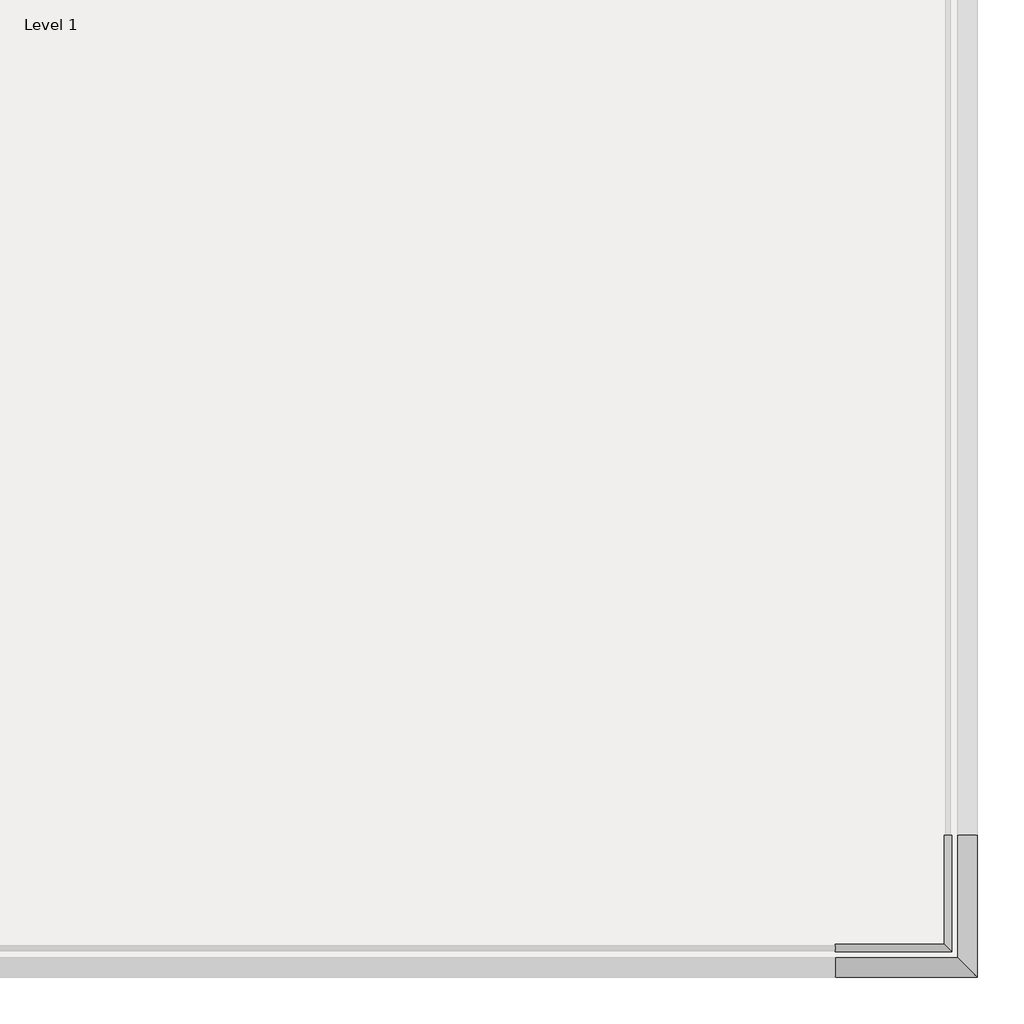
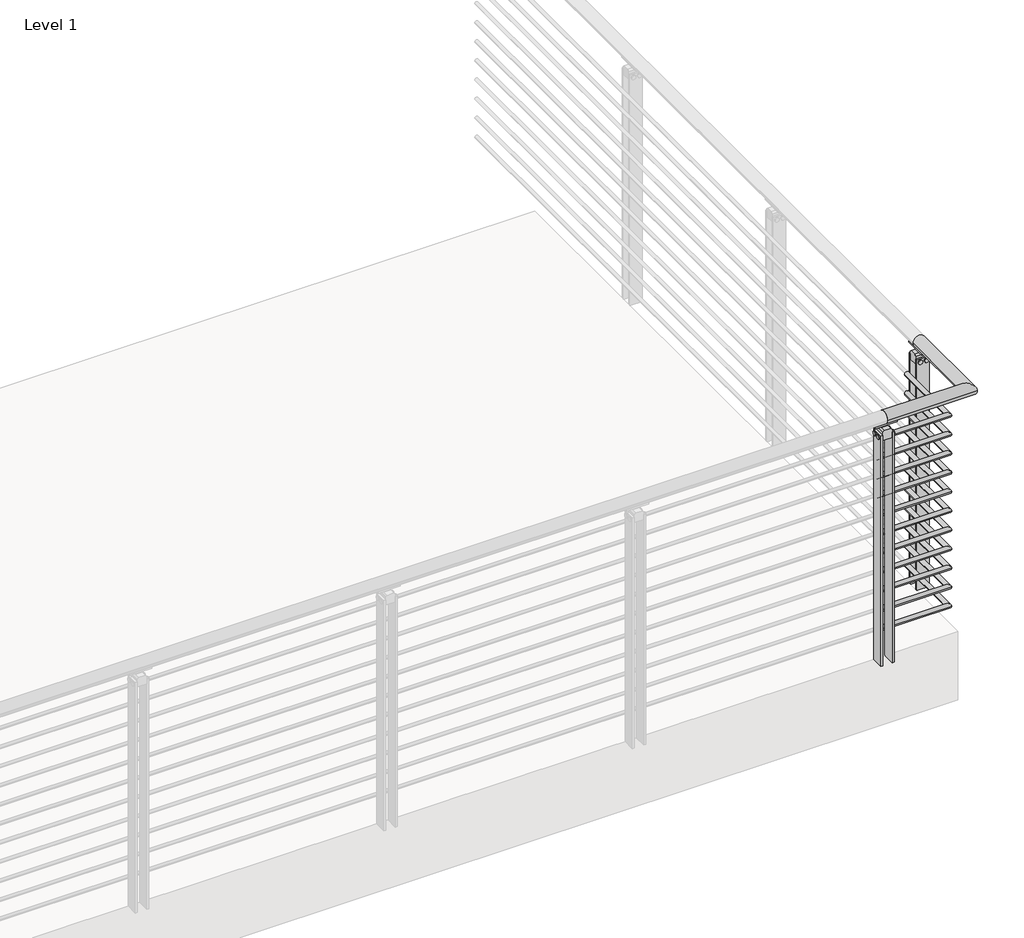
# One storey, part 10 of 36: 1 railing.
"""IFC4 building model written with IfcOpenShell, lengths in millimetres."""

from ifc_helpers import new_model, si_unit, point, frame, frame_2d, origin, origin_with_axes, place, context, project, spatial, polyline, circle_curve, ellipse_curve, trimmed, segment, composite_curve, outline, extrude, element, save
from ifc_brep_helpers import plane_surface, cylinder_surface, revolved_surface, advanced_brep

model = new_model("IFC4")

# Units and contexts
model_context = context("Model", 3, world=origin())
ifc_project = project(units=[si_unit("LENGTHUNIT", "METRE", prefix="MILLI")], contexts=[model_context])

# Site, building, storey
site = spatial("IfcSite", under=ifc_project)
building = spatial("IfcBuilding", under=site)
storey = spatial("IfcBuildingStorey", under=building, Name="Level 1", Elevation=0.0)

# Railing
placement = place(None, origin())
element("IfcRailing", 1, ObjectType="VIVA-BLADE-Multiline-Weld Mount-Corner", at=placement, inside=storey, context=model_context, shape_type="SolidModel", body=[
    advanced_brep(
    [(45029.2855247, -75066.0334719, 1054.1), (45029.2855247, -75015.2334719, 1054.1), (45397.5855247, -75066.0334719, 1054.1), (45346.7855247, -75015.2334719, 1054.1), (45397.5855247, -74697.7334719, 1054.1), (45346.7855247, -74697.7334719, 1054.1)],
    [
        (0, 1, circle_curve(frame((45029.2855247, -75040.6334719, 1054.1), z_axis=(-1.0, 0.0, 0.0), x_axis=(0.0, 1.0, 0.0)), 25.4)),
        (1, 0, circle_curve(frame((45029.2855247, -75040.6334719, 1054.1), z_axis=(-1.0, 0.0, 0.0), x_axis=(0.0, 1.0, 0.0)), 25.4)),
        (0, 2),
        (2, 3, ellipse_curve(frame((45372.1855247, -75040.6334719, 1054.1), z_axis=(-0.7071067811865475, -0.7071067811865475, 0.0), x_axis=(-0.7071067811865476, 0.7071067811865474, 0.0)), 35.9210245, 25.4)),
        (3, 1),
        (3, 2, ellipse_curve(frame((45372.1855247, -75040.6334719, 1054.1), z_axis=(-0.7071067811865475, -0.7071067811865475, 0.0), x_axis=(-0.7071067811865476, 0.7071067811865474, 0.0)), 35.9210245, 25.4)),
        (4, 5, circle_curve(frame((45372.1855247, -74697.7334719, 1054.1), z_axis=(0.0, 1.0, 0.0), x_axis=(-1.0, 0.0, 0.0)), 25.4)),
        (5, 4, circle_curve(frame((45372.1855247, -74697.7334719, 1054.1), z_axis=(0.0, 1.0, 0.0), x_axis=(-1.0, 0.0, 0.0)), 25.4)),
        (2, 4),
        (5, 3),
    ],
    [
        plane_surface(frame((45029.2855247, -75040.6334719, 1079.5), z_axis=(-1.0, 0.0, 0.0), x_axis=(0.0, 1.0, 0.0))),
        cylinder_surface(frame((45029.2855247, -75040.6334719, 1054.1), z_axis=(-1.0, 0.0, 0.0), x_axis=(0.0, 1.0, 0.0)), 25.4),
        plane_surface(frame((45372.1855247, -74697.7334719, 1079.5), z_axis=(0.0, 1.0, 0.0), x_axis=(0.0, 0.0, 1.0))),
        cylinder_surface(frame((45372.1855247, -75040.6334719, 1054.1), z_axis=(0.0, -1.0, 0.0), x_axis=(-1.0, 0.0, 0.0)), 25.4),
    ],
    [
        (0, [[1, 2]]),
        (1, [[-1, 3, 4, 5]]),
        (1, [[-2, -5, 6, -3]]),
        (2, [[7, 8]]),
        (3, [[-4, 9, -8, 10]]),
        (3, [[-6, -10, -7, -9]]),
    ],
),
    advanced_brep(
    [(45029.2855247, -74980.3084719, 930.275), (45029.2855247, -74999.3584719, 930.275), (45311.8605247, -74980.3084719, 930.275), (45330.9105247, -74999.3584719, 930.275), (45311.8605247, -74697.7334719, 930.275), (45330.9105247, -74697.7334719, 930.275)],
    [
        (0, 1, circle_curve(frame((45029.2855247, -74989.8334719, 930.275), z_axis=(-1.0, 0.0, 0.0), x_axis=(0.0, -1.0, 0.0)), 9.525)),
        (1, 0, circle_curve(frame((45029.2855247, -74989.8334719, 930.275), z_axis=(-1.0, 0.0, 0.0), x_axis=(0.0, -1.0, 0.0)), 9.525)),
        (0, 2),
        (2, 3, ellipse_curve(frame((45321.3855247, -74989.8334719, 930.275), z_axis=(-0.7071067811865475, -0.7071067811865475, 0.0), x_axis=(-0.7071067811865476, 0.7071067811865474, 0.0)), 13.4703842, 9.525)),
        (3, 1),
        (3, 2, ellipse_curve(frame((45321.3855247, -74989.8334719, 930.275), z_axis=(-0.7071067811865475, -0.7071067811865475, 0.0), x_axis=(-0.7071067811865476, 0.7071067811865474, 0.0)), 13.4703842, 9.525)),
        (4, 5, circle_curve(frame((45321.3855247, -74697.7334719, 930.275), z_axis=(0.0, 1.0, 0.0), x_axis=(1.0, 0.0, 0.0)), 9.525)),
        (5, 4, circle_curve(frame((45321.3855247, -74697.7334719, 930.275), z_axis=(0.0, 1.0, 0.0), x_axis=(1.0, 0.0, 0.0)), 9.525)),
        (2, 4),
        (5, 3),
    ],
    [
        plane_surface(frame((45029.2855247, -74989.8334719, 939.8), z_axis=(-1.0, 0.0, 0.0), x_axis=(0.0, 1.0, 0.0))),
        cylinder_surface(frame((45029.2855247, -74989.8334719, 930.275), z_axis=(-1.0, 0.0, 0.0), x_axis=(0.0, -1.0, 0.0)), 9.525),
        plane_surface(frame((45321.3855247, -74697.7334719, 939.8), z_axis=(0.0, 1.0, 0.0), x_axis=(0.0, 0.0, 1.0))),
        cylinder_surface(frame((45321.3855247, -74989.8334719, 930.275), z_axis=(0.0, -1.0, 0.0), x_axis=(1.0, 0.0, 0.0)), 9.525),
    ],
    [
        (0, [[1, 2]]),
        (1, [[-1, 3, 4, 5]]),
        (1, [[-2, -5, 6, -3]]),
        (2, [[7, 8]]),
        (3, [[-4, 9, -8, 10]]),
        (3, [[-6, -10, -7, -9]]),
    ],
),
    advanced_brep(
    [(45029.2855247, -74980.3084719, 847.725), (45029.2855247, -74999.3584719, 847.725), (45311.8605247, -74980.3084719, 847.725), (45330.9105247, -74999.3584719, 847.725), (45311.8605247, -74697.7334719, 847.725), (45330.9105247, -74697.7334719, 847.725)],
    [
        (0, 1, circle_curve(frame((45029.2855247, -74989.8334719, 847.725), z_axis=(-1.0, 0.0, 0.0), x_axis=(0.0, -1.0, 0.0)), 9.525)),
        (1, 0, circle_curve(frame((45029.2855247, -74989.8334719, 847.725), z_axis=(-1.0, 0.0, 0.0), x_axis=(0.0, -1.0, 0.0)), 9.525)),
        (0, 2),
        (2, 3, ellipse_curve(frame((45321.3855247, -74989.8334719, 847.725), z_axis=(-0.7071067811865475, -0.7071067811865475, 0.0), x_axis=(-0.7071067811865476, 0.7071067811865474, 0.0)), 13.4703842, 9.525)),
        (3, 1),
        (3, 2, ellipse_curve(frame((45321.3855247, -74989.8334719, 847.725), z_axis=(-0.7071067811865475, -0.7071067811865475, 0.0), x_axis=(-0.7071067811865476, 0.7071067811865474, 0.0)), 13.4703842, 9.525)),
        (4, 5, circle_curve(frame((45321.3855247, -74697.7334719, 847.725), z_axis=(0.0, 1.0, 0.0), x_axis=(1.0, 0.0, 0.0)), 9.525)),
        (5, 4, circle_curve(frame((45321.3855247, -74697.7334719, 847.725), z_axis=(0.0, 1.0, 0.0), x_axis=(1.0, 0.0, 0.0)), 9.525)),
        (2, 4),
        (5, 3),
    ],
    [
        plane_surface(frame((45029.2855247, -74989.8334719, 857.25), z_axis=(-1.0, 0.0, 0.0), x_axis=(0.0, 1.0, 0.0))),
        cylinder_surface(frame((45029.2855247, -74989.8334719, 847.725), z_axis=(-1.0, 0.0, 0.0), x_axis=(0.0, -1.0, 0.0)), 9.525),
        plane_surface(frame((45321.3855247, -74697.7334719, 857.25), z_axis=(0.0, 1.0, 0.0), x_axis=(0.0, 0.0, 1.0))),
        cylinder_surface(frame((45321.3855247, -74989.8334719, 847.725), z_axis=(0.0, -1.0, 0.0), x_axis=(1.0, 0.0, 0.0)), 9.525),
    ],
    [
        (0, [[1, 2]]),
        (1, [[-1, 3, 4, 5]]),
        (1, [[-2, -5, 6, -3]]),
        (2, [[7, 8]]),
        (3, [[-4, 9, -8, 10]]),
        (3, [[-6, -10, -7, -9]]),
    ],
),
    advanced_brep(
    [(45029.2855247, -74980.3084719, 765.175), (45029.2855247, -74999.3584719, 765.175), (45311.8605247, -74980.3084719, 765.175), (45330.9105247, -74999.3584719, 765.175), (45311.8605247, -74697.7334719, 765.175), (45330.9105247, -74697.7334719, 765.175)],
    [
        (0, 1, circle_curve(frame((45029.2855247, -74989.8334719, 765.175), z_axis=(-1.0, 0.0, 0.0), x_axis=(0.0, -1.0, 0.0)), 9.525)),
        (1, 0, circle_curve(frame((45029.2855247, -74989.8334719, 765.175), z_axis=(-1.0, 0.0, 0.0), x_axis=(0.0, -1.0, 0.0)), 9.525)),
        (0, 2),
        (2, 3, ellipse_curve(frame((45321.3855247, -74989.8334719, 765.175), z_axis=(-0.7071067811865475, -0.7071067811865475, 0.0), x_axis=(-0.7071067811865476, 0.7071067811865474, 0.0)), 13.4703842, 9.525)),
        (3, 1),
        (3, 2, ellipse_curve(frame((45321.3855247, -74989.8334719, 765.175), z_axis=(-0.7071067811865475, -0.7071067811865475, 0.0), x_axis=(-0.7071067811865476, 0.7071067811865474, 0.0)), 13.4703842, 9.525)),
        (4, 5, circle_curve(frame((45321.3855247, -74697.7334719, 765.175), z_axis=(0.0, 1.0, 0.0), x_axis=(1.0, 0.0, 0.0)), 9.525)),
        (5, 4, circle_curve(frame((45321.3855247, -74697.7334719, 765.175), z_axis=(0.0, 1.0, 0.0), x_axis=(1.0, 0.0, 0.0)), 9.525)),
        (2, 4),
        (5, 3),
    ],
    [
        plane_surface(frame((45029.2855247, -74989.8334719, 774.7), z_axis=(-1.0, 0.0, 0.0), x_axis=(0.0, 1.0, 0.0))),
        cylinder_surface(frame((45029.2855247, -74989.8334719, 765.175), z_axis=(-1.0, 0.0, 0.0), x_axis=(0.0, -1.0, 0.0)), 9.525),
        plane_surface(frame((45321.3855247, -74697.7334719, 774.7), z_axis=(0.0, 1.0, 0.0), x_axis=(0.0, 0.0, 1.0))),
        cylinder_surface(frame((45321.3855247, -74989.8334719, 765.175), z_axis=(0.0, -1.0, 0.0), x_axis=(1.0, 0.0, 0.0)), 9.525),
    ],
    [
        (0, [[1, 2]]),
        (1, [[-1, 3, 4, 5]]),
        (1, [[-2, -5, 6, -3]]),
        (2, [[7, 8]]),
        (3, [[-4, 9, -8, 10]]),
        (3, [[-6, -10, -7, -9]]),
    ],
),
    advanced_brep(
    [(45029.2855247, -74980.3084719, 682.625), (45029.2855247, -74999.3584719, 682.625), (45311.8605247, -74980.3084719, 682.625), (45330.9105247, -74999.3584719, 682.625), (45311.8605247, -74697.7334719, 682.625), (45330.9105247, -74697.7334719, 682.625)],
    [
        (0, 1, circle_curve(frame((45029.2855247, -74989.8334719, 682.625), z_axis=(-1.0, 0.0, 0.0), x_axis=(0.0, -1.0, 0.0)), 9.525)),
        (1, 0, circle_curve(frame((45029.2855247, -74989.8334719, 682.625), z_axis=(-1.0, 0.0, 0.0), x_axis=(0.0, -1.0, 0.0)), 9.525)),
        (0, 2),
        (2, 3, ellipse_curve(frame((45321.3855247, -74989.8334719, 682.625), z_axis=(-0.7071067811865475, -0.7071067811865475, 0.0), x_axis=(-0.7071067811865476, 0.7071067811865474, 0.0)), 13.4703842, 9.525)),
        (3, 1),
        (3, 2, ellipse_curve(frame((45321.3855247, -74989.8334719, 682.625), z_axis=(-0.7071067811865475, -0.7071067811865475, 0.0), x_axis=(-0.7071067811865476, 0.7071067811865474, 0.0)), 13.4703842, 9.525)),
        (4, 5, circle_curve(frame((45321.3855247, -74697.7334719, 682.625), z_axis=(0.0, 1.0, 0.0), x_axis=(1.0, 0.0, 0.0)), 9.525)),
        (5, 4, circle_curve(frame((45321.3855247, -74697.7334719, 682.625), z_axis=(0.0, 1.0, 0.0), x_axis=(1.0, 0.0, 0.0)), 9.525)),
        (2, 4),
        (5, 3),
    ],
    [
        plane_surface(frame((45029.2855247, -74989.8334719, 692.15), z_axis=(-1.0, 0.0, 0.0), x_axis=(0.0, 1.0, 0.0))),
        cylinder_surface(frame((45029.2855247, -74989.8334719, 682.625), z_axis=(-1.0, 0.0, 0.0), x_axis=(0.0, -1.0, 0.0)), 9.525),
        plane_surface(frame((45321.3855247, -74697.7334719, 692.15), z_axis=(0.0, 1.0, 0.0), x_axis=(0.0, 0.0, 1.0))),
        cylinder_surface(frame((45321.3855247, -74989.8334719, 682.625), z_axis=(0.0, -1.0, 0.0), x_axis=(1.0, 0.0, 0.0)), 9.525),
    ],
    [
        (0, [[1, 2]]),
        (1, [[-1, 3, 4, 5]]),
        (1, [[-2, -5, 6, -3]]),
        (2, [[7, 8]]),
        (3, [[-4, 9, -8, 10]]),
        (3, [[-6, -10, -7, -9]]),
    ],
),
    advanced_brep(
    [(45029.2855247, -74980.3084719, 600.075), (45029.2855247, -74999.3584719, 600.075), (45311.8605247, -74980.3084719, 600.075), (45330.9105247, -74999.3584719, 600.075), (45311.8605247, -74697.7334719, 600.075), (45330.9105247, -74697.7334719, 600.075)],
    [
        (0, 1, circle_curve(frame((45029.2855247, -74989.8334719, 600.075), z_axis=(-1.0, 0.0, 0.0), x_axis=(0.0, -1.0, 0.0)), 9.525)),
        (1, 0, circle_curve(frame((45029.2855247, -74989.8334719, 600.075), z_axis=(-1.0, 0.0, 0.0), x_axis=(0.0, -1.0, 0.0)), 9.525)),
        (0, 2),
        (2, 3, ellipse_curve(frame((45321.3855247, -74989.8334719, 600.075), z_axis=(-0.7071067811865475, -0.7071067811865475, 0.0), x_axis=(-0.7071067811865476, 0.7071067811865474, 0.0)), 13.4703842, 9.525)),
        (3, 1),
        (3, 2, ellipse_curve(frame((45321.3855247, -74989.8334719, 600.075), z_axis=(-0.7071067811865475, -0.7071067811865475, 0.0), x_axis=(-0.7071067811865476, 0.7071067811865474, 0.0)), 13.4703842, 9.525)),
        (4, 5, circle_curve(frame((45321.3855247, -74697.7334719, 600.075), z_axis=(0.0, 1.0, 0.0), x_axis=(1.0, 0.0, 0.0)), 9.525)),
        (5, 4, circle_curve(frame((45321.3855247, -74697.7334719, 600.075), z_axis=(0.0, 1.0, 0.0), x_axis=(1.0, 0.0, 0.0)), 9.525)),
        (2, 4),
        (5, 3),
    ],
    [
        plane_surface(frame((45029.2855247, -74989.8334719, 609.6), z_axis=(-1.0, 0.0, 0.0), x_axis=(0.0, 1.0, 0.0))),
        cylinder_surface(frame((45029.2855247, -74989.8334719, 600.075), z_axis=(-1.0, 0.0, 0.0), x_axis=(0.0, -1.0, 0.0)), 9.525),
        plane_surface(frame((45321.3855247, -74697.7334719, 609.6), z_axis=(0.0, 1.0, 0.0), x_axis=(0.0, 0.0, 1.0))),
        cylinder_surface(frame((45321.3855247, -74989.8334719, 600.075), z_axis=(0.0, -1.0, 0.0), x_axis=(1.0, 0.0, 0.0)), 9.525),
    ],
    [
        (0, [[1, 2]]),
        (1, [[-1, 3, 4, 5]]),
        (1, [[-2, -5, 6, -3]]),
        (2, [[7, 8]]),
        (3, [[-4, 9, -8, 10]]),
        (3, [[-6, -10, -7, -9]]),
    ],
),
    advanced_brep(
    [(45029.2855247, -74980.3084719, 517.525), (45029.2855247, -74999.3584719, 517.525), (45311.8605247, -74980.3084719, 517.525), (45330.9105247, -74999.3584719, 517.525), (45311.8605247, -74697.7334719, 517.525), (45330.9105247, -74697.7334719, 517.525)],
    [
        (0, 1, circle_curve(frame((45029.2855247, -74989.8334719, 517.525), z_axis=(-1.0, 0.0, 0.0), x_axis=(0.0, -1.0, 0.0)), 9.525)),
        (1, 0, circle_curve(frame((45029.2855247, -74989.8334719, 517.525), z_axis=(-1.0, 0.0, 0.0), x_axis=(0.0, -1.0, 0.0)), 9.525)),
        (0, 2),
        (2, 3, ellipse_curve(frame((45321.3855247, -74989.8334719, 517.525), z_axis=(-0.7071067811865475, -0.7071067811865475, 0.0), x_axis=(-0.7071067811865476, 0.7071067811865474, 0.0)), 13.4703842, 9.525)),
        (3, 1),
        (3, 2, ellipse_curve(frame((45321.3855247, -74989.8334719, 517.525), z_axis=(-0.7071067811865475, -0.7071067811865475, 0.0), x_axis=(-0.7071067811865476, 0.7071067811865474, 0.0)), 13.4703842, 9.525)),
        (4, 5, circle_curve(frame((45321.3855247, -74697.7334719, 517.525), z_axis=(0.0, 1.0, 0.0), x_axis=(1.0, 0.0, 0.0)), 9.525)),
        (5, 4, circle_curve(frame((45321.3855247, -74697.7334719, 517.525), z_axis=(0.0, 1.0, 0.0), x_axis=(1.0, 0.0, 0.0)), 9.525)),
        (2, 4),
        (5, 3),
    ],
    [
        plane_surface(frame((45029.2855247, -74989.8334719, 527.05), z_axis=(-1.0, 0.0, 0.0), x_axis=(0.0, 1.0, 0.0))),
        cylinder_surface(frame((45029.2855247, -74989.8334719, 517.525), z_axis=(-1.0, 0.0, 0.0), x_axis=(0.0, -1.0, 0.0)), 9.525),
        plane_surface(frame((45321.3855247, -74697.7334719, 527.05), z_axis=(0.0, 1.0, 0.0), x_axis=(0.0, 0.0, 1.0))),
        cylinder_surface(frame((45321.3855247, -74989.8334719, 517.525), z_axis=(0.0, -1.0, 0.0), x_axis=(1.0, 0.0, 0.0)), 9.525),
    ],
    [
        (0, [[1, 2]]),
        (1, [[-1, 3, 4, 5]]),
        (1, [[-2, -5, 6, -3]]),
        (2, [[7, 8]]),
        (3, [[-4, 9, -8, 10]]),
        (3, [[-6, -10, -7, -9]]),
    ],
),
    advanced_brep(
    [(45029.2855247, -74980.3084719, 434.975), (45029.2855247, -74999.3584719, 434.975), (45311.8605247, -74980.3084719, 434.975), (45330.9105247, -74999.3584719, 434.975), (45311.8605247, -74697.7334719, 434.975), (45330.9105247, -74697.7334719, 434.975)],
    [
        (0, 1, circle_curve(frame((45029.2855247, -74989.8334719, 434.975), z_axis=(-1.0, 0.0, 0.0), x_axis=(0.0, -1.0, 0.0)), 9.525)),
        (1, 0, circle_curve(frame((45029.2855247, -74989.8334719, 434.975), z_axis=(-1.0, 0.0, 0.0), x_axis=(0.0, -1.0, 0.0)), 9.525)),
        (0, 2),
        (2, 3, ellipse_curve(frame((45321.3855247, -74989.8334719, 434.975), z_axis=(-0.7071067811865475, -0.7071067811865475, 0.0), x_axis=(-0.7071067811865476, 0.7071067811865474, 0.0)), 13.4703842, 9.525)),
        (3, 1),
        (3, 2, ellipse_curve(frame((45321.3855247, -74989.8334719, 434.975), z_axis=(-0.7071067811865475, -0.7071067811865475, 0.0), x_axis=(-0.7071067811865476, 0.7071067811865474, 0.0)), 13.4703842, 9.525)),
        (4, 5, circle_curve(frame((45321.3855247, -74697.7334719, 434.975), z_axis=(0.0, 1.0, 0.0), x_axis=(1.0, 0.0, 0.0)), 9.525)),
        (5, 4, circle_curve(frame((45321.3855247, -74697.7334719, 434.975), z_axis=(0.0, 1.0, 0.0), x_axis=(1.0, 0.0, 0.0)), 9.525)),
        (2, 4),
        (5, 3),
    ],
    [
        plane_surface(frame((45029.2855247, -74989.8334719, 444.5), z_axis=(-1.0, 0.0, 0.0), x_axis=(0.0, 1.0, 0.0))),
        cylinder_surface(frame((45029.2855247, -74989.8334719, 434.975), z_axis=(-1.0, 0.0, 0.0), x_axis=(0.0, -1.0, 0.0)), 9.525),
        plane_surface(frame((45321.3855247, -74697.7334719, 444.5), z_axis=(0.0, 1.0, 0.0), x_axis=(0.0, 0.0, 1.0))),
        cylinder_surface(frame((45321.3855247, -74989.8334719, 434.975), z_axis=(0.0, -1.0, 0.0), x_axis=(1.0, 0.0, 0.0)), 9.525),
    ],
    [
        (0, [[1, 2]]),
        (1, [[-1, 3, 4, 5]]),
        (1, [[-2, -5, 6, -3]]),
        (2, [[7, 8]]),
        (3, [[-4, 9, -8, 10]]),
        (3, [[-6, -10, -7, -9]]),
    ],
),
    advanced_brep(
    [(45029.2855247, -74980.3084719, 352.425), (45029.2855247, -74999.3584719, 352.425), (45311.8605247, -74980.3084719, 352.425), (45330.9105247, -74999.3584719, 352.425), (45311.8605247, -74697.7334719, 352.425), (45330.9105247, -74697.7334719, 352.425)],
    [
        (0, 1, circle_curve(frame((45029.2855247, -74989.8334719, 352.425), z_axis=(-1.0, 0.0, 0.0), x_axis=(0.0, -1.0, 0.0)), 9.525)),
        (1, 0, circle_curve(frame((45029.2855247, -74989.8334719, 352.425), z_axis=(-1.0, 0.0, 0.0), x_axis=(0.0, -1.0, 0.0)), 9.525)),
        (0, 2),
        (2, 3, ellipse_curve(frame((45321.3855247, -74989.8334719, 352.425), z_axis=(-0.7071067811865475, -0.7071067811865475, 0.0), x_axis=(-0.7071067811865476, 0.7071067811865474, 0.0)), 13.4703842, 9.525)),
        (3, 1),
        (3, 2, ellipse_curve(frame((45321.3855247, -74989.8334719, 352.425), z_axis=(-0.7071067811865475, -0.7071067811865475, 0.0), x_axis=(-0.7071067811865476, 0.7071067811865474, 0.0)), 13.4703842, 9.525)),
        (4, 5, circle_curve(frame((45321.3855247, -74697.7334719, 352.425), z_axis=(0.0, 1.0, 0.0), x_axis=(1.0, 0.0, 0.0)), 9.525)),
        (5, 4, circle_curve(frame((45321.3855247, -74697.7334719, 352.425), z_axis=(0.0, 1.0, 0.0), x_axis=(1.0, 0.0, 0.0)), 9.525)),
        (2, 4),
        (5, 3),
    ],
    [
        plane_surface(frame((45029.2855247, -74989.8334719, 361.95), z_axis=(-1.0, 0.0, 0.0), x_axis=(0.0, 1.0, 0.0))),
        cylinder_surface(frame((45029.2855247, -74989.8334719, 352.425), z_axis=(-1.0, 0.0, 0.0), x_axis=(0.0, -1.0, 0.0)), 9.525),
        plane_surface(frame((45321.3855247, -74697.7334719, 361.95), z_axis=(0.0, 1.0, 0.0), x_axis=(0.0, 0.0, 1.0))),
        cylinder_surface(frame((45321.3855247, -74989.8334719, 352.425), z_axis=(0.0, -1.0, 0.0), x_axis=(1.0, 0.0, 0.0)), 9.525),
    ],
    [
        (0, [[1, 2]]),
        (1, [[-1, 3, 4, 5]]),
        (1, [[-2, -5, 6, -3]]),
        (2, [[7, 8]]),
        (3, [[-4, 9, -8, 10]]),
        (3, [[-6, -10, -7, -9]]),
    ],
),
    advanced_brep(
    [(45029.2855247, -74980.3084719, 269.875), (45029.2855247, -74999.3584719, 269.875), (45311.8605247, -74980.3084719, 269.875), (45330.9105247, -74999.3584719, 269.875), (45311.8605247, -74697.7334719, 269.875), (45330.9105247, -74697.7334719, 269.875)],
    [
        (0, 1, circle_curve(frame((45029.2855247, -74989.8334719, 269.875), z_axis=(-1.0, 0.0, 0.0), x_axis=(0.0, -1.0, 0.0)), 9.525)),
        (1, 0, circle_curve(frame((45029.2855247, -74989.8334719, 269.875), z_axis=(-1.0, 0.0, 0.0), x_axis=(0.0, -1.0, 0.0)), 9.525)),
        (0, 2),
        (2, 3, ellipse_curve(frame((45321.3855247, -74989.8334719, 269.875), z_axis=(-0.7071067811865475, -0.7071067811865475, 0.0), x_axis=(-0.7071067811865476, 0.7071067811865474, 0.0)), 13.4703842, 9.525)),
        (3, 1),
        (3, 2, ellipse_curve(frame((45321.3855247, -74989.8334719, 269.875), z_axis=(-0.7071067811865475, -0.7071067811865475, 0.0), x_axis=(-0.7071067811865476, 0.7071067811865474, 0.0)), 13.4703842, 9.525)),
        (4, 5, circle_curve(frame((45321.3855247, -74697.7334719, 269.875), z_axis=(0.0, 1.0, 0.0), x_axis=(1.0, 0.0, 0.0)), 9.525)),
        (5, 4, circle_curve(frame((45321.3855247, -74697.7334719, 269.875), z_axis=(0.0, 1.0, 0.0), x_axis=(1.0, 0.0, 0.0)), 9.525)),
        (2, 4),
        (5, 3),
    ],
    [
        plane_surface(frame((45029.2855247, -74989.8334719, 279.4), z_axis=(-1.0, 0.0, 0.0), x_axis=(0.0, 1.0, 0.0))),
        cylinder_surface(frame((45029.2855247, -74989.8334719, 269.875), z_axis=(-1.0, 0.0, 0.0), x_axis=(0.0, -1.0, 0.0)), 9.525),
        plane_surface(frame((45321.3855247, -74697.7334719, 279.4), z_axis=(0.0, 1.0, 0.0), x_axis=(0.0, 0.0, 1.0))),
        cylinder_surface(frame((45321.3855247, -74989.8334719, 269.875), z_axis=(0.0, -1.0, 0.0), x_axis=(1.0, 0.0, 0.0)), 9.525),
    ],
    [
        (0, [[1, 2]]),
        (1, [[-1, 3, 4, 5]]),
        (1, [[-2, -5, 6, -3]]),
        (2, [[7, 8]]),
        (3, [[-4, 9, -8, 10]]),
        (3, [[-6, -10, -7, -9]]),
    ],
),
    advanced_brep(
    [(45029.2855247, -74980.3084719, 187.325), (45029.2855247, -74999.3584719, 187.325), (45311.8605247, -74980.3084719, 187.325), (45330.9105247, -74999.3584719, 187.325), (45311.8605247, -74697.7334719, 187.325), (45330.9105247, -74697.7334719, 187.325)],
    [
        (0, 1, circle_curve(frame((45029.2855247, -74989.8334719, 187.325), z_axis=(-1.0, 0.0, 0.0), x_axis=(0.0, -1.0, 0.0)), 9.525)),
        (1, 0, circle_curve(frame((45029.2855247, -74989.8334719, 187.325), z_axis=(-1.0, 0.0, 0.0), x_axis=(0.0, -1.0, 0.0)), 9.525)),
        (0, 2),
        (2, 3, ellipse_curve(frame((45321.3855247, -74989.8334719, 187.325), z_axis=(-0.7071067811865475, -0.7071067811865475, 0.0), x_axis=(-0.7071067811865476, 0.7071067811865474, 0.0)), 13.4703842, 9.525)),
        (3, 1),
        (3, 2, ellipse_curve(frame((45321.3855247, -74989.8334719, 187.325), z_axis=(-0.7071067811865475, -0.7071067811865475, 0.0), x_axis=(-0.7071067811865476, 0.7071067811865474, 0.0)), 13.4703842, 9.525)),
        (4, 5, circle_curve(frame((45321.3855247, -74697.7334719, 187.325), z_axis=(0.0, 1.0, 0.0), x_axis=(1.0, 0.0, 0.0)), 9.525)),
        (5, 4, circle_curve(frame((45321.3855247, -74697.7334719, 187.325), z_axis=(0.0, 1.0, 0.0), x_axis=(1.0, 0.0, 0.0)), 9.525)),
        (2, 4),
        (5, 3),
    ],
    [
        plane_surface(frame((45029.2855247, -74989.8334719, 196.85), z_axis=(-1.0, 0.0, 0.0), x_axis=(0.0, 1.0, 0.0))),
        cylinder_surface(frame((45029.2855247, -74989.8334719, 187.325), z_axis=(-1.0, 0.0, 0.0), x_axis=(0.0, -1.0, 0.0)), 9.525),
        plane_surface(frame((45321.3855247, -74697.7334719, 196.85), z_axis=(0.0, 1.0, 0.0), x_axis=(0.0, 0.0, 1.0))),
        cylinder_surface(frame((45321.3855247, -74989.8334719, 187.325), z_axis=(0.0, -1.0, 0.0), x_axis=(1.0, 0.0, 0.0)), 9.525),
    ],
    [
        (0, [[1, 2]]),
        (1, [[-1, 3, 4, 5]]),
        (1, [[-2, -5, 6, -3]]),
        (2, [[7, 8]]),
        (3, [[-4, 9, -8, 10]]),
        (3, [[-6, -10, -7, -9]]),
    ],
),
    advanced_brep(
    [(45029.2855247, -74980.3084719, 104.775), (45029.2855247, -74999.3584719, 104.775), (45311.8605247, -74980.3084719, 104.775), (45330.9105247, -74999.3584719, 104.775), (45311.8605247, -74697.7334719, 104.775), (45330.9105247, -74697.7334719, 104.775)],
    [
        (0, 1, circle_curve(frame((45029.2855247, -74989.8334719, 104.775), z_axis=(-1.0, 0.0, 0.0), x_axis=(0.0, -1.0, 0.0)), 9.525)),
        (1, 0, circle_curve(frame((45029.2855247, -74989.8334719, 104.775), z_axis=(-1.0, 0.0, 0.0), x_axis=(0.0, -1.0, 0.0)), 9.525)),
        (0, 2),
        (2, 3, ellipse_curve(frame((45321.3855247, -74989.8334719, 104.775), z_axis=(-0.7071067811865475, -0.7071067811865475, 0.0), x_axis=(-0.7071067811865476, 0.7071067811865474, 0.0)), 13.4703842, 9.525)),
        (3, 1),
        (3, 2, ellipse_curve(frame((45321.3855247, -74989.8334719, 104.775), z_axis=(-0.7071067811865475, -0.7071067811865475, 0.0), x_axis=(-0.7071067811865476, 0.7071067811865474, 0.0)), 13.4703842, 9.525)),
        (4, 5, circle_curve(frame((45321.3855247, -74697.7334719, 104.775), z_axis=(0.0, 1.0, 0.0), x_axis=(1.0, 0.0, 0.0)), 9.525)),
        (5, 4, circle_curve(frame((45321.3855247, -74697.7334719, 104.775), z_axis=(0.0, 1.0, 0.0), x_axis=(1.0, 0.0, 0.0)), 9.525)),
        (2, 4),
        (5, 3),
    ],
    [
        plane_surface(frame((45029.2855247, -74989.8334719, 114.3), z_axis=(-1.0, 0.0, 0.0), x_axis=(0.0, 1.0, 0.0))),
        cylinder_surface(frame((45029.2855247, -74989.8334719, 104.775), z_axis=(-1.0, 0.0, 0.0), x_axis=(0.0, -1.0, 0.0)), 9.525),
        plane_surface(frame((45321.3855247, -74697.7334719, 114.3), z_axis=(0.0, 1.0, 0.0), x_axis=(0.0, 0.0, 1.0))),
        cylinder_surface(frame((45321.3855247, -74989.8334719, 104.775), z_axis=(0.0, -1.0, 0.0), x_axis=(1.0, 0.0, 0.0)), 9.525),
    ],
    [
        (0, [[1, 2]]),
        (1, [[-1, 3, 4, 5]]),
        (1, [[-2, -5, 6, -3]]),
        (2, [[7, 8]]),
        (3, [[-4, 9, -8, 10]]),
        (3, [[-6, -10, -7, -9]]),
    ],
),
    advanced_brep(
    [(45359.4254011, -74652.4960719, 1032.0967655), (45384.2974656, -74652.4960719, 1031.9535285), (45387.1063959, -74652.4960719, 1027.1267745), (45355.5895037, -74652.4960719, 1027.707533), (45359.4254011, -74742.9708719, 1032.0967655), (45355.5895037, -74742.9708719, 1027.707533), (45387.2201893, -74742.9708719, 1027.1893964), (45384.3844377, -74742.9708719, 1032.0018447)],
    [
        (0, 1, circle_curve(frame((45371.989204, -74652.4960719, 1054.2115898), z_axis=(0.0, -1.0, 0.0), x_axis=(-1.0, 0.0, 0.0)), 25.4345159)),
        (1, 2, circle_curve(frame((45385.6290908, -74652.4960719, 1029.4993599), z_axis=(0.0, 1.0, 0.0), x_axis=(-1.0, 0.0, 0.0)), 2.7949225)),
        (2, 3, circle_curve(frame((45371.8557409, -74652.4960719, 1054.9742164), z_axis=(0.0, 1.0, 0.0), x_axis=(-1.0, 0.0, 0.0)), 31.75)),
        (3, 0, circle_curve(frame((45357.8778434, -74652.4960719, 1029.5784521), z_axis=(0.0, 1.0, 0.0), x_axis=(-1.0, 0.0, 0.0)), 2.9558141)),
        (4, 5, circle_curve(frame((45357.8778434, -74742.9708719, 1029.5784521), z_axis=(0.0, -1.0, 0.0), x_axis=(-1.0, 0.0, 0.0)), 2.9558141)),
        (5, 6, circle_curve(frame((45371.8557409, -74742.9708719, 1054.9742164), z_axis=(0.0, -1.0, 0.0), x_axis=(-1.0, 0.0, 0.0)), 31.75)),
        (6, 7, circle_curve(frame((45385.6290908, -74742.9708719, 1029.4993599), z_axis=(0.0, -1.0, 0.0), x_axis=(-1.0, 0.0, 0.0)), 2.7949225)),
        (7, 4, circle_curve(frame((45371.989204, -74742.9708719, 1054.2115898), z_axis=(0.0, 1.0, 0.0), x_axis=(-1.0, 0.0, 0.0)), 25.4345159)),
        (0, 4),
        (7, 1),
        (6, 2),
        (5, 3),
    ],
    [
        plane_surface(frame((45346.5546881, -74652.4960719, 1054.2115898), z_axis=(0.0, 1.0, 0.0), x_axis=(0.0, 0.0, -1.0))),
        plane_surface(frame((45346.5546881, -74742.9708719, 1054.2115898), z_axis=(0.0, -1.0, 0.0), x_axis=(0.0, 0.0, 1.0))),
        revolved_surface(polyline([(45346.5546881, -74742.9708719, 1054.2115898), (45346.5546881, -74652.4960719, 1054.2115898)]), (45371.989204, -74742.9708719, 1054.2115898), (0.0, -1.0, 0.0)),
        cylinder_surface(frame((45385.6290908, -74742.9708719, 1029.4993599), z_axis=(0.0, 1.0, 0.0), x_axis=(-1.0, 0.0, 0.0)), 2.7949225),
        cylinder_surface(frame((45371.8557409, -74742.9708719, 1054.9742164), z_axis=(0.0, 1.0, 0.0), x_axis=(-1.0, 0.0, 0.0)), 31.75),
        cylinder_surface(frame((45357.8778434, -74742.9708719, 1029.5784521), z_axis=(0.0, 1.0, 0.0), x_axis=(-1.0, 0.0, 0.0)), 2.9558141),
    ],
    [
        (0, [[1, 2, 3, 4]]),
        (1, [[5, 6, 7, 8]]),
        (2, [[-1, 9, -8, 10]]),
        (3, [[-2, -10, -7, 11]]),
        (4, [[-3, -11, -6, 12]]),
        (5, [[-4, -12, -5, -9]]),
    ],
),
    advanced_brep(
    [(45369.6455247, -74685.0334719, 1014.4125), (45369.6455247, -74710.4334719, 1014.4125), (45369.6455247, -74724.8013867, 1028.7804149), (45369.6455247, -74670.665557, 1028.7804149), (45374.7255247, -74685.0334719, 1014.4125), (45374.7255247, -74670.665557, 1028.7804149), (45374.7255247, -74724.8013867, 1028.7804149), (45374.7255247, -74710.4334719, 1014.4125)],
    [
        (0, 1),
        (1, 2, circle_curve(frame((45369.6455247, -74724.8013867, 1014.4125), z_axis=(1.0, 0.0, 0.0), x_axis=(0.0, -1.0, 0.0)), 14.3679149)),
        (2, 3),
        (3, 0, circle_curve(frame((45369.6455247, -74670.665557, 1014.4125), z_axis=(1.0, 0.0, 0.0), x_axis=(0.0, -1.0, 0.0)), 14.3679149)),
        (4, 5, circle_curve(frame((45374.7255247, -74670.665557, 1014.4125), z_axis=(-1.0, 0.0, 0.0), x_axis=(0.0, -1.0, 0.0)), 14.3679149)),
        (5, 6),
        (6, 7, circle_curve(frame((45374.7255247, -74724.8013867, 1014.4125), z_axis=(-1.0, 0.0, 0.0), x_axis=(0.0, -1.0, 0.0)), 14.3679149)),
        (7, 4),
        (0, 4),
        (7, 1),
        (6, 2),
        (5, 3),
    ],
    [
        plane_surface(frame((45369.6455247, -74710.4334719, 1014.4125), z_axis=(-1.0, 0.0, 0.0), x_axis=(0.0, -1.0, 0.0))),
        plane_surface(frame((45374.7255247, -74710.4334719, 1014.4125), z_axis=(1.0, 0.0, 0.0), x_axis=(0.0, 1.0, 0.0))),
        plane_surface(frame((45369.6455247, -74685.0334719, 1014.4125), z_axis=(0.0, 0.0, -1.0), x_axis=(1.0, 0.0, 0.0))),
        revolved_surface(polyline([(45374.7255247, -74739.16930159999, 1014.4125), (45369.6455247, -74739.16930159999, 1014.4125)]), (45374.7255247, -74724.8013867, 1014.4125), (1.0, 0.0, 0.0)),
        plane_surface(frame((45369.6455247, -74724.8013867, 1028.7804149), z_axis=(0.0, 0.0, 1.0), x_axis=(1.0, 0.0, 0.0))),
        revolved_surface(polyline([(45374.7255247, -74685.0334719, 1014.4125), (45369.6455247, -74685.0334719, 1014.4125)]), (45374.7255247, -74670.665557, 1014.4125), (1.0, 0.0, 0.0)),
    ],
    [
        (0, [[1, 2, 3, 4]]),
        (1, [[5, 6, 7, 8]]),
        (2, [[-1, 9, -8, 10]]),
        (3, [[-2, -10, -7, 11]]),
        (4, [[-3, -11, -6, 12]]),
        (5, [[-4, -12, -5, -9]]),
    ],
),
    extrude(outline(polyline([(45346.785728, -74724.8083075), (45346.785728, -74716.7834719), (45397.5880526, -74716.7834719), (45397.5880526, -74724.8083075), (45346.785728, -74724.8083075)])), origin_with_axes(), (0.0, 0.0, 1.0), 996.95),
    extrude(outline(composite_curve([segment(trimmed(circle_curve(frame_2d((986.0416929, 45384.8880016)), 8.89), [point((986.0416929, 45393.7780016))], [point((986.0416929, 45375.9980016))], False, "CARTESIAN"), True, "CONTINUOUS"), segment(trimmed(circle_curve(frame_2d((986.0416929, 45384.8880016)), 8.89), [point((986.0416929, 45375.9980016))], [point((986.0416929, 45393.7780016))], False, "CARTESIAN"), True, "CONTINUOUS")], self_intersect=False)), frame((0.0, -74729.4834719, 0.0), z_axis=(0.0, 1.0, 0.0), x_axis=(0.0, 0.0, 1.0)), (0.0, 0.0, 1.0), 63.4880631),
    extrude(outline(composite_curve([segment(trimmed(circle_curve(frame_2d((986.0416929, 45359.4881037)), 8.89), [point((986.0416929, 45368.3781037))], [point((986.0416929, 45350.5981037))], False, "CARTESIAN"), True, "CONTINUOUS"), segment(trimmed(circle_curve(frame_2d((986.0416929, 45359.4881037)), 8.89), [point((986.0416929, 45350.5981037))], [point((986.0416929, 45368.3781037))], False, "CARTESIAN"), True, "CONTINUOUS")], self_intersect=False)), frame((0.0, -74729.4834719, 0.0), z_axis=(0.0, 1.0, 0.0), x_axis=(0.0, 0.0, 1.0)), (0.0, 0.0, 1.0), 63.4880631),
    extrude(outline(polyline([(-74716.7834719, 974.7123), (-74716.7834719, 1008.0625), (-74710.4334719, 1014.4125), (-74685.0334719, 1014.4125), (-74678.6834719, 1008.0625), (-74678.6834719, 974.7123), (-74716.7834719, 974.7123)])), frame((45346.7855247, 0.0, 0.0), z_axis=(1.0, 0.0, 0.0), x_axis=(0.0, 1.0, 0.0)), (0.0, 0.0, 1.0), 50.8025279),
    extrude(outline(polyline([(45346.785728, -74678.6835099), (45346.785728, -74670.6825099), (45397.5880526, -74670.6825099), (45397.5880526, -74678.6835099), (45346.785728, -74678.6835099)])), origin_with_axes(), (0.0, 0.0, 1.0), 996.95),
    advanced_brep(
    [(45074.5229247, -75027.8733482, 1032.0967655), (45074.5229247, -75052.7454127, 1031.9535285), (45074.5229247, -75055.5543431, 1027.1267745), (45074.5229247, -75024.0374508, 1027.707533), (44984.0481247, -75027.8733482, 1032.0967655), (44984.0481247, -75024.0374508, 1027.707533), (44984.0481247, -75055.6681364, 1027.1893964), (44984.0481247, -75052.8323849, 1032.0018447)],
    [
        (0, 1, circle_curve(frame((45074.5229247, -75040.4371511, 1054.2115898), z_axis=(-1.0, 0.0, 0.0), x_axis=(0.0, 1.0, 0.0)), 25.4345159)),
        (1, 2, circle_curve(frame((45074.5229247, -75054.077038, 1029.4993599), z_axis=(1.0, 0.0, 0.0), x_axis=(0.0, 1.0, 0.0)), 2.7949225)),
        (2, 3, circle_curve(frame((45074.5229247, -75040.303688, 1054.9742164), z_axis=(1.0, 0.0, 0.0), x_axis=(0.0, 1.0, 0.0)), 31.75)),
        (3, 0, circle_curve(frame((45074.5229247, -75026.3257905, 1029.5784521), z_axis=(1.0, 0.0, 0.0), x_axis=(0.0, 1.0, 0.0)), 2.9558141)),
        (4, 5, circle_curve(frame((44984.0481247, -75026.3257905, 1029.5784521), z_axis=(-1.0, 0.0, 0.0), x_axis=(0.0, 1.0, 0.0)), 2.9558141)),
        (5, 6, circle_curve(frame((44984.0481247, -75040.303688, 1054.9742164), z_axis=(-1.0, 0.0, 0.0), x_axis=(0.0, 1.0, 0.0)), 31.75)),
        (6, 7, circle_curve(frame((44984.0481247, -75054.077038, 1029.4993599), z_axis=(-1.0, 0.0, 0.0), x_axis=(0.0, 1.0, 0.0)), 2.7949225)),
        (7, 4, circle_curve(frame((44984.0481247, -75040.4371511, 1054.2115898), z_axis=(1.0, 0.0, 0.0), x_axis=(0.0, 1.0, 0.0)), 25.4345159)),
        (0, 4),
        (7, 1),
        (6, 2),
        (5, 3),
    ],
    [
        plane_surface(frame((45074.5229247, -75015.0026353, 1054.2115898), z_axis=(1.0, 0.0, 0.0), x_axis=(0.0, 0.0, -1.0))),
        plane_surface(frame((44984.0481247, -75015.0026353, 1054.2115898), z_axis=(-1.0, 0.0, 0.0), x_axis=(0.0, 0.0, 1.0))),
        revolved_surface(polyline([(44984.0481247, -75015.00263520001, 1054.2115898), (45074.5229247, -75015.00263520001, 1054.2115898)]), (44984.0481247, -75040.4371511, 1054.2115898), (-1.0, 0.0, 0.0)),
        cylinder_surface(frame((44984.0481247, -75054.077038, 1029.4993599), z_axis=(1.0, 0.0, 0.0), x_axis=(0.0, 1.0, 0.0)), 2.7949225),
        cylinder_surface(frame((44984.0481247, -75040.303688, 1054.9742164), z_axis=(1.0, 0.0, 0.0), x_axis=(0.0, 1.0, 0.0)), 31.75),
        cylinder_surface(frame((44984.0481247, -75026.3257905, 1029.5784521), z_axis=(1.0, 0.0, 0.0), x_axis=(0.0, 1.0, 0.0)), 2.9558141),
    ],
    [
        (0, [[1, 2, 3, 4]]),
        (1, [[5, 6, 7, 8]]),
        (2, [[-1, 9, -8, 10]]),
        (3, [[-2, -10, -7, 11]]),
        (4, [[-3, -11, -6, 12]]),
        (5, [[-4, -12, -5, -9]]),
    ],
),
    advanced_brep(
    [(45041.9855247, -75038.0934719, 1014.4125), (45016.5855247, -75038.0934719, 1014.4125), (45002.2176098, -75038.0934719, 1028.7804149), (45056.3534396, -75038.0934719, 1028.7804149), (45041.9855247, -75043.1734719, 1014.4125), (45056.3534396, -75043.1734719, 1028.7804149), (45002.2176098, -75043.1734719, 1028.7804149), (45016.5855247, -75043.1734719, 1014.4125)],
    [
        (0, 1),
        (1, 2, circle_curve(frame((45002.2176098, -75038.0934719, 1014.4125), z_axis=(0.0, -1.0, 0.0), x_axis=(-1.0, 0.0, 0.0)), 14.3679149)),
        (2, 3),
        (3, 0, circle_curve(frame((45056.3534396, -75038.0934719, 1014.4125), z_axis=(0.0, -1.0, 0.0), x_axis=(-1.0, 0.0, 0.0)), 14.3679149)),
        (4, 5, circle_curve(frame((45056.3534396, -75043.1734719, 1014.4125), z_axis=(0.0, 1.0, 0.0), x_axis=(-1.0, 0.0, 0.0)), 14.3679149)),
        (5, 6),
        (6, 7, circle_curve(frame((45002.2176098, -75043.1734719, 1014.4125), z_axis=(0.0, 1.0, 0.0), x_axis=(-1.0, 0.0, 0.0)), 14.3679149)),
        (7, 4),
        (0, 4),
        (7, 1),
        (6, 2),
        (5, 3),
    ],
    [
        plane_surface(frame((45016.5855247, -75038.0934719, 1014.4125), z_axis=(0.0, 1.0, 0.0), x_axis=(-1.0, 0.0, 0.0))),
        plane_surface(frame((45016.5855247, -75043.1734719, 1014.4125), z_axis=(0.0, -1.0, 0.0), x_axis=(1.0, 0.0, 0.0))),
        plane_surface(frame((45041.9855247, -75038.0934719, 1014.4125), z_axis=(0.0, 0.0, -1.0), x_axis=(0.0, -1.0, 0.0))),
        revolved_surface(polyline([(44987.8496949, -75043.1734719, 1014.4125), (44987.8496949, -75038.0934719, 1014.4125)]), (45002.2176098, -75043.1734719, 1014.4125), (0.0, -1.0, 0.0)),
        plane_surface(frame((45002.2176098, -75038.0934719, 1028.7804149), z_axis=(0.0, 0.0, 1.0), x_axis=(0.0, -1.0, 0.0))),
        revolved_surface(polyline([(45041.9855247, -75043.1734719, 1014.4125), (45041.9855247, -75038.0934719, 1014.4125)]), (45056.3534396, -75043.1734719, 1014.4125), (0.0, -1.0, 0.0)),
    ],
    [
        (0, [[1, 2, 3, 4]]),
        (1, [[5, 6, 7, 8]]),
        (2, [[-1, 9, -8, 10]]),
        (3, [[-2, -10, -7, 11]]),
        (4, [[-3, -11, -6, 12]]),
        (5, [[-4, -12, -5, -9]]),
    ],
),
    extrude(outline(polyline([(45002.210689, -75015.2336752), (45010.2355247, -75015.2336752), (45010.2355247, -75066.0359998), (45002.210689, -75066.0359998), (45002.210689, -75015.2336752)])), origin_with_axes(), (0.0, 0.0, 1.0), 996.95),
    extrude(outline(composite_curve([segment(trimmed(circle_curve(frame_2d((-75053.3359488, 986.0416929)), 8.89), [point((-75062.2259488, 986.0416929))], [point((-75044.4459488, 986.0416929))], False, "CARTESIAN"), True, "CONTINUOUS"), segment(trimmed(circle_curve(frame_2d((-75053.3359488, 986.0416929)), 8.89), [point((-75044.4459488, 986.0416929))], [point((-75062.2259488, 986.0416929))], False, "CARTESIAN"), True, "CONTINUOUS")], self_intersect=False)), frame((44997.5355247, 0.0, 0.0), z_axis=(1.0, 0.0, 0.0), x_axis=(0.0, 1.0, 0.0)), (0.0, 0.0, 1.0), 63.4880631),
    extrude(outline(composite_curve([segment(trimmed(circle_curve(frame_2d((-75027.9360508, 986.0416929)), 8.89), [point((-75036.8260508, 986.0416929))], [point((-75019.0460508, 986.0416929))], False, "CARTESIAN"), True, "CONTINUOUS"), segment(trimmed(circle_curve(frame_2d((-75027.9360508, 986.0416929)), 8.89), [point((-75019.0460508, 986.0416929))], [point((-75036.8260508, 986.0416929))], False, "CARTESIAN"), True, "CONTINUOUS")], self_intersect=False)), frame((44997.5355247, 0.0, 0.0), z_axis=(1.0, 0.0, 0.0), x_axis=(0.0, 1.0, 0.0)), (0.0, 0.0, 1.0), 63.4880631),
    extrude(outline(polyline([(974.7123, 45010.2355247), (974.7123, 45048.3355247), (1008.0625, 45048.3355247), (1014.4125, 45041.9855247), (1014.4125, 45016.5855247), (1008.0625, 45010.2355247), (974.7123, 45010.2355247)])), frame((0.0, -75066.0359998, 0.0), z_axis=(0.0, 1.0, 0.0), x_axis=(0.0, 0.0, 1.0)), (0.0, 0.0, 1.0), 50.8025279),
    extrude(outline(polyline([(45048.3354867, -75015.2336752), (45056.3364867, -75015.2336752), (45056.3364867, -75066.0359998), (45048.3354867, -75066.0359998), (45048.3354867, -75015.2336752)])), origin_with_axes(), (0.0, 0.0, 1.0), 996.95),
])

save(model, "model.ifc")
